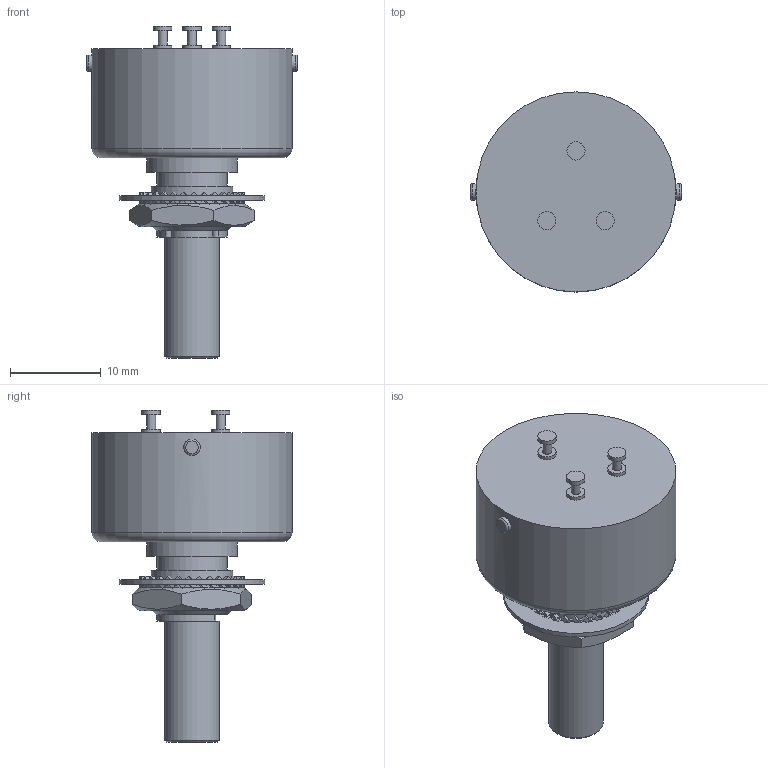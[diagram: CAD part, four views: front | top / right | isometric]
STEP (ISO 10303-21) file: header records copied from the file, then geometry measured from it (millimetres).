
FILE_DESCRIPTION (( 'STEP AP214' ), '1' );
FILE_NAME ('MP22-MP23_Dummy.STEP', '2019-04-25T08:27:10', ( '' ), ( '' ), 'SwSTEP 2.0', 'SolidWorks 2017', '' );
FILE_SCHEMA (( 'AUTOMOTIVE_DESIGN' ));
Length unit declared in the file: millimetre
Products named in the file (5): 59.000.xx.ein DC-Ring_59.000.00.EIN; MP22-MP23_Dummy; 90.002.XX.EIN.Serrated Washer_90.002.00.EIN.00; hex nut-SW12
Assembly tree (4 placements, depth 2):
  MP22-MP23_Dummy
    MP22-MP23_Dummy
    59.000.xx.ein DC-Ring_59.000.00.EIN
    hex nut-SW12
    90.002.XX.EIN.Serrated Washer_90.002.00.EIN.00
Bounding box: 23.2 x 22 x 36.5 mm (x, y, z)
Volume: 5684.8 mm3; surface area: 2807 mm2
Topology: 4 solids, 4 shells, 426 faces, 1202 edges, 799 vertices
Faces by surface type: plane 332, cylinder 87, cone 4, torus 3
Full cylindrical faces by diameter (mm): 1 x3, 1.8 x2, 2 x6, 5 x1, 6 x1, 7.7 x1, 8.5 x1, 9 x1, 10 x1, 16 x1, 22 x1
Entity records: 13844 total; most frequent: CARTESIAN_POINT 3113, ORIENTED_EDGE 2346, DIRECTION 2024, EDGE_CURVE 1173, LINE 800, VECTOR 800, VERTEX_POINT 797, AXIS2_PLACEMENT_3D 612
